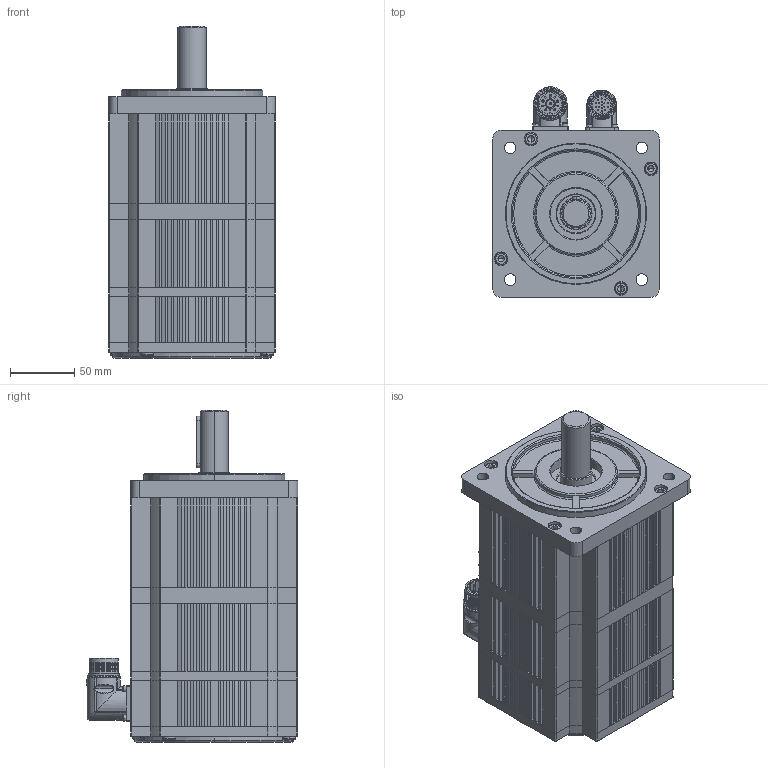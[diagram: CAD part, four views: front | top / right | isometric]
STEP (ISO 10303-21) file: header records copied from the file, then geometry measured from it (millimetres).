
FILE_DESCRIPTION (( 'STEP AP214' ), '1' );
FILE_NAME ('SMC130D-0100-20MBK-5LSP.STEP', '2022-09-14T05:55:54', ( '' ), ( '' ), 'SwSTEP 2.0', 'SolidWorks 2018', '' );
FILE_SCHEMA (( 'AUTOMOTIVE_DESIGN' ));
Length unit declared in the file: millimetre
Products named in the file (14): hexagon socket head cap screws gb_GB_FASTENER_SCREWS_HSHCS M2.5X8-N; 鎢攫欶褲极; 郋弊莉萇埭菁釱; SMC130D-0100-20MBK-5LSP; 鎢攫欶綴裔; 价陬裔啣; hexagon socket head cap screws gb_GB_FASTENER_SCREWS_HSHCS M6X55-N; hexagon socket head cap screws gb_GB_FASTENER_SCREWS_HSHCS M6X20-N; ぱ籵A倰瑩; 价陬欶; 綴傷裔; 儂褲; 郋弊莉陓瘍菁釱; ヶ傷裔
Assembly tree (26 placements, depth 2):
  SMC130D-0100-20MBK-5LSP
    ヶ傷裔
    儂褲
    綴傷裔
    鎢攫欶褲极
    鎢攫欶綴裔
    郋弊莉萇埭菁釱
    郋弊莉陓瘍菁釱
    hexagon socket head cap screws gb_GB_FASTENER_SCREWS_HSHCS M2.5X8-N  x8
    hexagon socket head cap screws gb_GB_FASTENER_SCREWS_HSHCS M6X55-N  x4
    ぱ籵A倰瑩
    hexagon socket head cap screws gb_GB_FASTENER_SCREWS_HSHCS M6X20-N  x4
    价陬欶
    价陬裔啣
Bounding box: 130 x 164.5 x 258.5 mm (x, y, z)
Volume: 3072164.4 mm3; surface area: 410772.9 mm2
Topology: 50 solids, 50 shells, 2087 faces, 5371 edges, 3423 vertices
Faces by surface type: plane 978, cylinder 870, cone 90, torus 90, sphere 46, bspline 13
Entity records: 67172 total; most frequent: CARTESIAN_POINT 11767, DIRECTION 9719, ORIENTED_EDGE 9058, EDGE_CURVE 4529, AXIS2_PLACEMENT_3D 3560, VERTEX_POINT 2948, LINE 2599, VECTOR 2599
